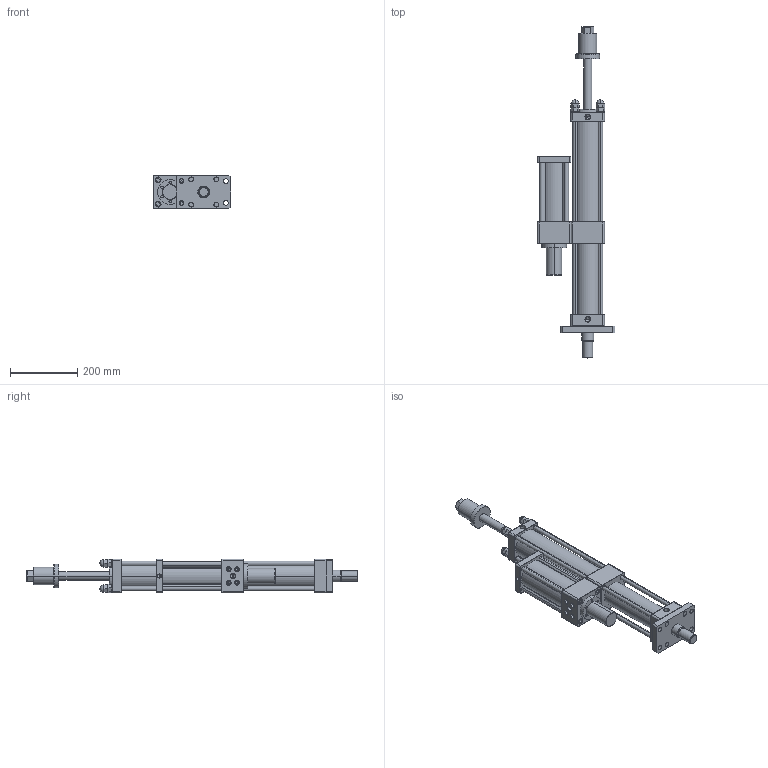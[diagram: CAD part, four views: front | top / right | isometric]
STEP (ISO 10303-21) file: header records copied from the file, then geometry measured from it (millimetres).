
FILE_DESCRIPTION (( 'STEP AP203' ), '1' );
FILE_NAME ('MPTD-63-150-10-3T.STEP', '2016-03-17T10:33:57', ( 'WIN' ), ( '' ), 'SwSTEP 2.0', 'SolidWorks 2014', '' );
FILE_SCHEMA (( 'CONFIG_CONTROL_DESIGN' ));
Length unit declared in the file: millimetre
Products named in the file (1): MPTD-63-150-10-3T
Bounding box: 230 x 988 x 100 mm (x, y, z)
Volume: 3898950.9 mm3; surface area: 827162.3 mm2
Topology: 1 solids, 8 shells, 725 faces, 1699 edges, 1051 vertices
Faces by surface type: plane 394, cylinder 219, cone 56, torus 32, bspline 24
Entity records: 21592 total; most frequent: CARTESIAN_POINT 4886, DIRECTION 3579, ORIENTED_EDGE 3346, EDGE_CURVE 1673, AXIS2_PLACEMENT_3D 1312, VERTEX_POINT 1051, VECTOR 955, LINE 955
